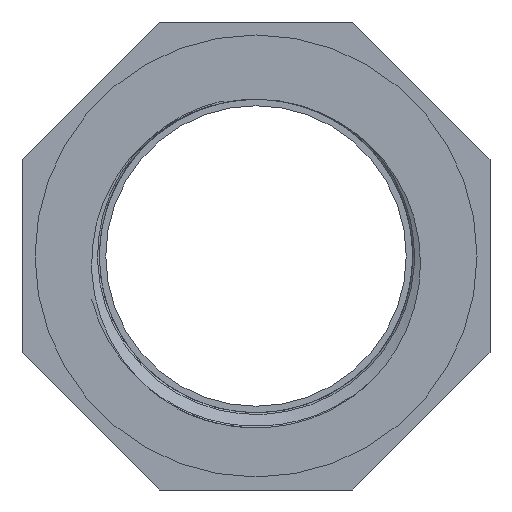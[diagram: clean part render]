
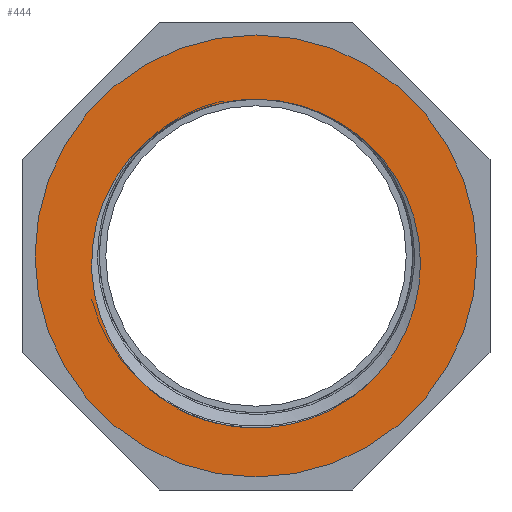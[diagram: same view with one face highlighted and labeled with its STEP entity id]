
A CAD part, front view. The second image highlights one B-rep face of the part: STEP entity #444.
In plain terms, the highlighted planar face has unit normal (0, -1, 0).
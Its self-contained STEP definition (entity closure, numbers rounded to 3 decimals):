
#82=FACE_BOUND('',#149,.T.);
#90=CIRCLE('',#469,17.);
#115=FACE_OUTER_BOUND('',#148,.T.);
#148=EDGE_LOOP('',(#392));
#149=EDGE_LOOP('',(#393,#394,#395,#396,#397));
#165=B_SPLINE_CURVE_WITH_KNOTS('',3,(#1270,#1271,#1272,#1273,#1274,#1275,
#1276,#1277,#1278,#1279,#1280,#1281,#1282),.UNSPECIFIED.,.F.,.F.,(4,3,3,
3,4),(0.,0.609,1.232,1.866,2.046),
 .UNSPECIFIED.);
#168=B_SPLINE_CURVE_WITH_KNOTS('',3,(#2232,#2233,#2234,#2235,#2236,#2237,
#2238,#2239,#2240,#2241,#2242,#2243),.UNSPECIFIED.,.F.,.F.,(4,2,2,2,2,4),
(0.,0.336,0.648,0.95,1.152,
1.324),.UNSPECIFIED.);
#180=B_SPLINE_CURVE_WITH_KNOTS('',3,(#6592,#6593,#6594,#6595,#6596,#6597,
#6598,#6599,#6600,#6601,#6602,#6603,#6604),.UNSPECIFIED.,.F.,.F.,(4,3,3,
3,4),(0.,0.64,1.267,1.88,2.049),
 .UNSPECIFIED.);
#182=B_SPLINE_CURVE_WITH_KNOTS('',3,(#7319,#7320,#7321,#7322,#7323,#7324,
#7325,#7326),.UNSPECIFIED.,.F.,.F.,(4,2,2,4),(0.,0.272,0.418,
0.576),.UNSPECIFIED.);
#183=B_SPLINE_CURVE_WITH_KNOTS('',3,(#7922,#7923,#7924,#7925,#7926,#7927),
 .UNSPECIFIED.,.F.,.F.,(4,2,4),(0.,0.468,1.062),
 .UNSPECIFIED.);
#196=VERTEX_POINT('',#1150);
#197=VERTEX_POINT('',#1269);
#198=VERTEX_POINT('',#2115);
#204=VERTEX_POINT('',#6473);
#205=VERTEX_POINT('',#7200);
#225=VERTEX_POINT('',#7986);
#239=EDGE_CURVE('',#197,#196,#165,.T.);
#242=EDGE_CURVE('',#196,#198,#168,.T.);
#254=EDGE_CURVE('',#198,#204,#180,.T.);
#256=EDGE_CURVE('',#204,#205,#182,.T.);
#257=EDGE_CURVE('',#205,#197,#183,.T.);
#285=EDGE_CURVE('',#225,#225,#90,.T.);
#392=ORIENTED_EDGE('',*,*,#285,.T.);
#393=ORIENTED_EDGE('',*,*,#257,.T.);
#394=ORIENTED_EDGE('',*,*,#239,.T.);
#395=ORIENTED_EDGE('',*,*,#242,.T.);
#396=ORIENTED_EDGE('',*,*,#254,.T.);
#397=ORIENTED_EDGE('',*,*,#256,.T.);
#418=PLANE('',#468);
#444=ADVANCED_FACE('',(#115,#82),#418,.F.);
#468=AXIS2_PLACEMENT_3D('',#7985,#536,#537);
#469=AXIS2_PLACEMENT_3D('',#7987,#538,#539);
#536=DIRECTION('center_axis',(0.,1.,0.));
#537=DIRECTION('ref_axis',(0.,0.,1.));
#538=DIRECTION('center_axis',(0.,-1.,0.));
#539=DIRECTION('ref_axis',(1.,0.,0.));
#1150=CARTESIAN_POINT('',(9.05,-20.,-9.454));
#1269=CARTESIAN_POINT('',(8.431,-20.,8.808));
#1270=CARTESIAN_POINT('Ctrl Pts',(8.431,-20.,8.808));
#1271=CARTESIAN_POINT('Ctrl Pts',(9.959,-20.,7.472));
#1272=CARTESIAN_POINT('Ctrl Pts',(11.14,-20.,5.757));
#1273=CARTESIAN_POINT('Ctrl Pts',(11.852,-20.,3.864));
#1274=CARTESIAN_POINT('Ctrl Pts',(12.58,-20.,1.928));
#1275=CARTESIAN_POINT('Ctrl Pts',(12.815,-20.,-0.195));
#1276=CARTESIAN_POINT('Ctrl Pts',(12.54,-20.,-2.244));
#1277=CARTESIAN_POINT('Ctrl Pts',(12.26,-20.,-4.332));
#1278=CARTESIAN_POINT('Ctrl Pts',(11.446,-20.,-6.359));
#1279=CARTESIAN_POINT('Ctrl Pts',(10.206,-20.,-8.072));
#1280=CARTESIAN_POINT('Ctrl Pts',(9.854,-20.,-8.559));
#1281=CARTESIAN_POINT('Ctrl Pts',(9.467,-20.,-9.02));
#1282=CARTESIAN_POINT('Ctrl Pts',(9.05,-20.,-9.454));
#2115=CARTESIAN_POINT('',(-9.05,-20.,-9.455));
#2232=CARTESIAN_POINT('Ctrl Pts',(9.05,-20.,-9.454));
#2233=CARTESIAN_POINT('Ctrl Pts',(8.274,-20.,-10.263));
#2234=CARTESIAN_POINT('Ctrl Pts',(7.069,-20.,-11.258));
#2235=CARTESIAN_POINT('Ctrl Pts',(3.878,-20.,-12.741));
#2236=CARTESIAN_POINT('Ctrl Pts',(2.213,-20.,-13.143));
#2237=CARTESIAN_POINT('Ctrl Pts',(-1.119,-20.,-13.277));
#2238=CARTESIAN_POINT('Ctrl Pts',(-2.758,-20.,-13.03));
#2239=CARTESIAN_POINT('Ctrl Pts',(-5.342,-20.,-12.113));
#2240=CARTESIAN_POINT('Ctrl Pts',(-6.331,-20.,-11.61));
#2241=CARTESIAN_POINT('Ctrl Pts',(-8.004,-20.,-10.459));
#2242=CARTESIAN_POINT('Ctrl Pts',(-8.602,-20.,-9.922));
#2243=CARTESIAN_POINT('Ctrl Pts',(-9.05,-20.,-9.454));
#6473=CARTESIAN_POINT('',(-8.431,-20.,8.807));
#6592=CARTESIAN_POINT('Ctrl Pts',(-9.05,-20.,-9.454));
#6593=CARTESIAN_POINT('Ctrl Pts',(-10.527,-20.,-7.915));
#6594=CARTESIAN_POINT('Ctrl Pts',(-11.614,-20.,-6.018));
#6595=CARTESIAN_POINT('Ctrl Pts',(-12.185,-20.,-3.972));
#6596=CARTESIAN_POINT('Ctrl Pts',(-12.744,-20.,-1.968));
#6597=CARTESIAN_POINT('Ctrl Pts',(-12.803,-20.,0.181));
#6598=CARTESIAN_POINT('Ctrl Pts',(-12.347,-20.,2.209));
#6599=CARTESIAN_POINT('Ctrl Pts',(-11.901,-20.,4.19));
#6600=CARTESIAN_POINT('Ctrl Pts',(-10.958,-20.,6.073));
#6601=CARTESIAN_POINT('Ctrl Pts',(-9.624,-20.,7.611));
#6602=CARTESIAN_POINT('Ctrl Pts',(-9.255,-20.,8.037));
#6603=CARTESIAN_POINT('Ctrl Pts',(-8.856,-20.,8.436));
#6604=CARTESIAN_POINT('Ctrl Pts',(-8.431,-20.,8.807));
#7200=CARTESIAN_POINT('',(0.,-20.,12.058));
#7319=CARTESIAN_POINT('Ctrl Pts',(-8.431,-20.,8.808));
#7320=CARTESIAN_POINT('Ctrl Pts',(-7.747,-20.,9.405));
#7321=CARTESIAN_POINT('Ctrl Pts',(-6.689,-20.,10.233));
#7322=CARTESIAN_POINT('Ctrl Pts',(-4.437,-20.,11.271));
#7323=CARTESIAN_POINT('Ctrl Pts',(-3.617,-20.,11.551));
#7324=CARTESIAN_POINT('Ctrl Pts',(-1.863,-20.,11.953));
#7325=CARTESIAN_POINT('Ctrl Pts',(-0.933,-20.,12.059));
#7326=CARTESIAN_POINT('Ctrl Pts',(0.,-20.,12.059));
#7922=CARTESIAN_POINT('Ctrl Pts',(0.,-20.,12.059));
#7923=CARTESIAN_POINT('Ctrl Pts',(1.559,-20.,12.059));
#7924=CARTESIAN_POINT('Ctrl Pts',(3.101,-20.,11.765));
#7925=CARTESIAN_POINT('Ctrl Pts',(6.397,-20.,10.47));
#7926=CARTESIAN_POINT('Ctrl Pts',(7.68,-20.,9.463));
#7927=CARTESIAN_POINT('Ctrl Pts',(8.431,-20.,8.808));
#7985=CARTESIAN_POINT('Origin',(0.,-20.,0.));
#7986=CARTESIAN_POINT('',(-17.,-20.,0.));
#7987=CARTESIAN_POINT('Origin',(0.,-20.,0.));
